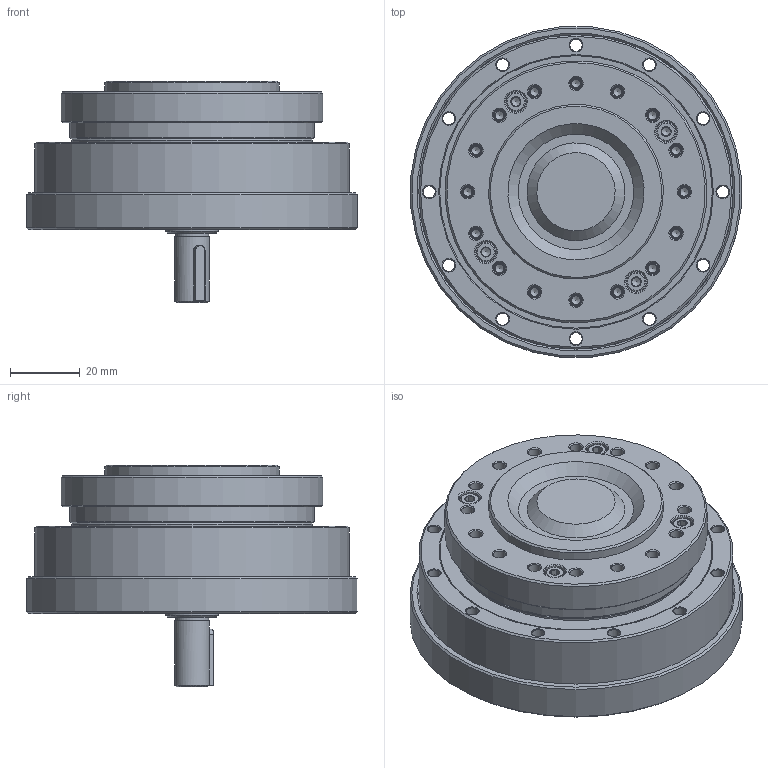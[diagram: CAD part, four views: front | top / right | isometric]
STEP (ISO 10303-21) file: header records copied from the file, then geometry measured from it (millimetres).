
FILE_DESCRIPTION(/* description */ (''),/* implementation_level */ '2;1');
FILE_NAME(/* name */ 'LHT-20-XX-U-IV.stp',/* time_stamp */ '2023-07-29T10:58:12+08:00',/* author */ (''),/* organization */ (''),/* preprocessor_version */ 'ST-DEVELOPER v16.7',/* originating_system */ 'SIEMENS PLM Software NX 12.0',/* authorisation */ '');
FILE_SCHEMA (('AUTOMOTIVE_DESIGN { 1 0 10303 214 3 1 1 1 }'));
Length unit declared in the file: millimetre
Products named in the file (21): EB375007-20KC-46; EB375007-20KC-01; TC-69x78x5; GB-T276_60000_2Z-1994,619I8_2Z; GB-T276_60000_2Z-1994,61902_2Z; LHT-20-XX-IV-带键; LHT-20-00-IV下壳体; LHT-20-00-IV上壳体; SC-15x25x5; C型平键3x3x16; GB-T70.1-2000,M3x12; 内六角平圆头螺钉M3x10; 内六角平圆头螺钉M3x8(4.5mm头径); O-75x1.5; O-55x0.5; GB-T70.1-2000,M3x10; 柔轮LHT-20; 刚轮LHT-20; EB375007-20KC; 交叉轴承LHT-20; LHT-20-XX-U-IV
Assembly tree (32 placements, depth 3):
  LHT-20-XX-U-IV
    交叉轴承LHT-20
      TC-69x78x5
    刚轮LHT-20
    柔轮LHT-20
    EB375007-20KC
      EB375007-20KC-01
      EB375007-20KC-46
    GB-T70.1-2000,M3x10  x4
    O-55x0.5
    O-75x1.5
    内六角平圆头螺钉M3x8(4.5mm头径)  x4
    内六角平圆头螺钉M3x10  x4
    GB-T70.1-2000,M3x12  x4
    C型平键3x3x16
    SC-15x25x5
    LHT-20-00-IV上壳体
    LHT-20-00-IV下壳体
    LHT-20-XX-IV-带键
    GB-T276_60000_2Z-1994,61902_2Z
    GB-T276_60000_2Z-1994,619I8_2Z
Bounding box: 94.64 x 94.64 x 63.5 mm (x, y, z)
Volume: 152983.2 mm3; surface area: 123818.7 mm2
Topology: 79 solids, 80 shells, 1363 faces, 3054 edges, 1842 vertices
Faces by surface type: cone 474, plane 403, cylinder 322, torus 119, sphere 41, revolution 2, bspline 2
Full cylindrical faces by diameter (mm): 2.5 x43, 2.874 x16, 3.5 x92, 4.5 x4, 4.8 x4, 5.5 x12, 6 x18, 7.5 x1, 8 x2, 9.5 x1, 10 x1, 11.5 x1, 11.667 x2, 13.133 x2, 14.3 x1, 14.5 x1, 15 x4, 15.333 x2, 17 x1, 17.5 x1, 19 x2, 19.334 x2, 21.066 x2, 23.666 x2, 24.5 x1, 25 x2, 28 x3, 29.4 x1, 35.2 x1, 36 x1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
Entity records: 30619 total; most frequent: CARTESIAN_POINT 9117, DIRECTION 4567, ORIENTED_EDGE 2900, AXIS2_PLACEMENT_3D 2183, EDGE_LOOP 1920, FACE_BOUND 1755, EDGE_CURVE 1450, VERTEX_POINT 1298
